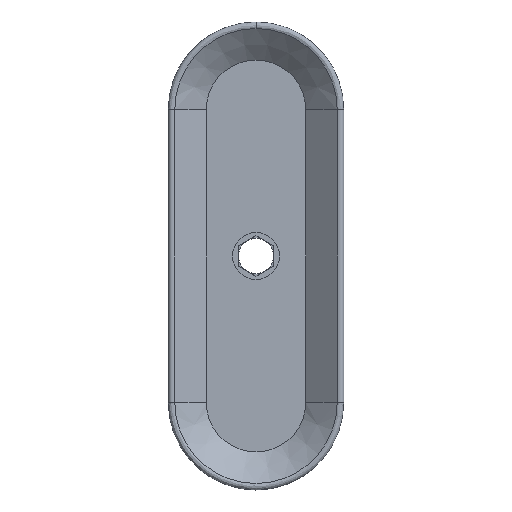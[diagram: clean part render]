
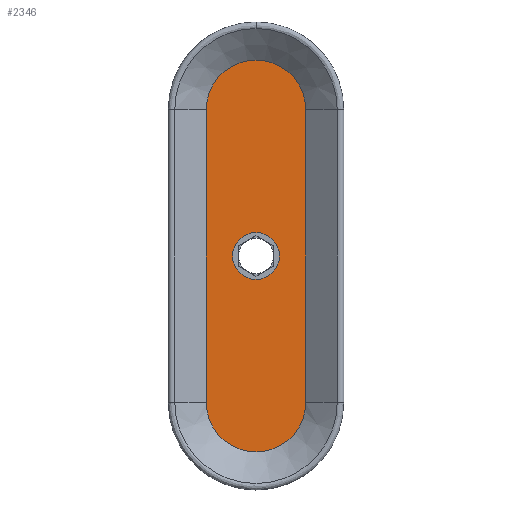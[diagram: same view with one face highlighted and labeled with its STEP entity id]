
A CAD part, front view. The second image highlights one B-rep face of the part: STEP entity #2346.
In plain terms, the highlighted planar face has unit normal (0, -1, 0).
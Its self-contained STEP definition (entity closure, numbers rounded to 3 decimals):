
#225 = LINE ( 'NONE', #2469, #2087 ) ;
#320 = AXIS2_PLACEMENT_3D ( 'NONE', #1680, #2772, #5059 ) ;
#374 = DIRECTION ( 'NONE',  ( -1., 0., 0. ) ) ;
#381 = ORIENTED_EDGE ( 'NONE', *, *, #2961, .T. ) ;
#471 = ORIENTED_EDGE ( 'NONE', *, *, #6862, .T. ) ;
#495 = EDGE_CURVE ( 'NONE', #4206, #5300, #5933, .T. ) ;
#822 = CARTESIAN_POINT ( 'NONE',  ( 0., -3.5, 0. ) ) ;
#1153 = CARTESIAN_POINT ( 'NONE',  ( -8.5, -3.5, 25. ) ) ;
#1336 = ORIENTED_EDGE ( 'NONE', *, *, #5713, .T. ) ;
#1434 = CARTESIAN_POINT ( 'NONE',  ( 0., -3.5, 25. ) ) ;
#1469 = FACE_BOUND ( 'NONE', #1894, .T. ) ;
#1680 = CARTESIAN_POINT ( 'NONE',  ( 0., -3.5, 0. ) ) ;
#1894 = EDGE_LOOP ( 'NONE', ( #381, #471 ) ) ;
#2087 = VECTOR ( 'NONE', #2575, 1000. ) ;
#2091 = ORIENTED_EDGE ( 'NONE', *, *, #7282, .T. ) ;
#2265 = EDGE_LOOP ( 'NONE', ( #2091, #3918, #7255, #1336 ) ) ;
#2346 = ADVANCED_FACE ( 'NONE', ( #2564, #1469 ), #4817, .T. ) ;
#2469 = CARTESIAN_POINT ( 'NONE',  ( 8.5, -3.5, 25. ) ) ;
#2553 = CARTESIAN_POINT ( 'NONE',  ( 0., -3.5, 25. ) ) ;
#2564 = FACE_OUTER_BOUND ( 'NONE', #2265, .T. ) ;
#2575 = DIRECTION ( 'NONE',  ( 0., 0., 1. ) ) ;
#2592 = CARTESIAN_POINT ( 'NONE',  ( -8.5, -3.5, 25. ) ) ;
#2646 = CARTESIAN_POINT ( 'NONE',  ( 0., -3.5, -25. ) ) ;
#2772 = DIRECTION ( 'NONE',  ( 0., 1., 0. ) ) ;
#2891 = AXIS2_PLACEMENT_3D ( 'NONE', #1434, #6594, #5970 ) ;
#2961 = EDGE_CURVE ( 'NONE', #3324, #4402, #3503, .T. ) ;
#3067 = DIRECTION ( 'NONE',  ( 0., 1., 0. ) ) ;
#3226 = AXIS2_PLACEMENT_3D ( 'NONE', #2553, #5473, #3776 ) ;
#3268 = AXIS2_PLACEMENT_3D ( 'NONE', #2646, #5429, #374 ) ;
#3324 = VERTEX_POINT ( 'NONE', #4156 ) ;
#3503 = CIRCLE ( 'NONE', #320, 4. ) ;
#3626 = VERTEX_POINT ( 'NONE', #6385 ) ;
#3776 = DIRECTION ( 'NONE',  ( -1., 0., 0. ) ) ;
#3918 = ORIENTED_EDGE ( 'NONE', *, *, #7138, .T. ) ;
#4156 = CARTESIAN_POINT ( 'NONE',  ( -4., -3.5, 0. ) ) ;
#4206 = VERTEX_POINT ( 'NONE', #6499 ) ;
#4402 = VERTEX_POINT ( 'NONE', #4602 ) ;
#4602 = CARTESIAN_POINT ( 'NONE',  ( 4., -3.5, 0. ) ) ;
#4807 = DIRECTION ( 'NONE',  ( -1., 0., 0. ) ) ;
#4817 = PLANE ( 'NONE',  #2891 ) ;
#4842 = DIRECTION ( 'NONE',  ( 0., 0., -1. ) ) ;
#4904 = AXIS2_PLACEMENT_3D ( 'NONE', #822, #3067, #4807 ) ;
#5059 = DIRECTION ( 'NONE',  ( -1., 0., 0. ) ) ;
#5300 = VERTEX_POINT ( 'NONE', #1153 ) ;
#5367 = VECTOR ( 'NONE', #4842, 1000. ) ;
#5429 = DIRECTION ( 'NONE',  ( 0., -1., 0. ) ) ;
#5473 = DIRECTION ( 'NONE',  ( 0., -1., 0. ) ) ;
#5713 = EDGE_CURVE ( 'NONE', #5300, #3626, #6586, .T. ) ;
#5933 = CIRCLE ( 'NONE', #3226, 8.5 ) ;
#5970 = DIRECTION ( 'NONE',  ( 1., 0., 0. ) ) ;
#6353 = CARTESIAN_POINT ( 'NONE',  ( 8.5, -3.5, -25. ) ) ;
#6385 = CARTESIAN_POINT ( 'NONE',  ( -8.5, -3.5, -25. ) ) ;
#6429 = VERTEX_POINT ( 'NONE', #6353 ) ;
#6446 = CIRCLE ( 'NONE', #4904, 4. ) ;
#6499 = CARTESIAN_POINT ( 'NONE',  ( 8.5, -3.5, 25. ) ) ;
#6586 = LINE ( 'NONE', #2592, #5367 ) ;
#6594 = DIRECTION ( 'NONE',  ( 0., -1., 0. ) ) ;
#6862 = EDGE_CURVE ( 'NONE', #4402, #3324, #6446, .T. ) ;
#7030 = CIRCLE ( 'NONE', #3268, 8.5 ) ;
#7138 = EDGE_CURVE ( 'NONE', #6429, #4206, #225, .T. ) ;
#7255 = ORIENTED_EDGE ( 'NONE', *, *, #495, .T. ) ;
#7282 = EDGE_CURVE ( 'NONE', #3626, #6429, #7030, .T. ) ;
